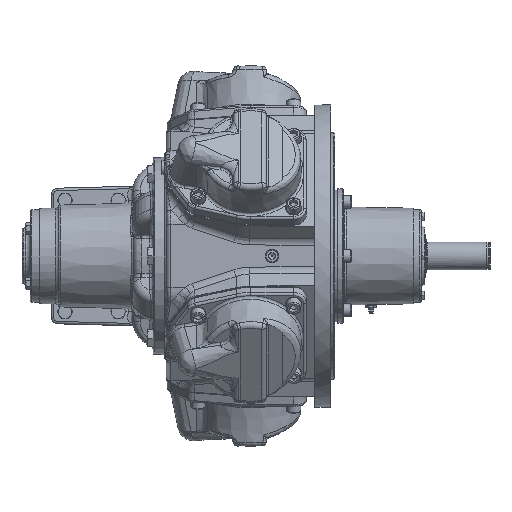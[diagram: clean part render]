
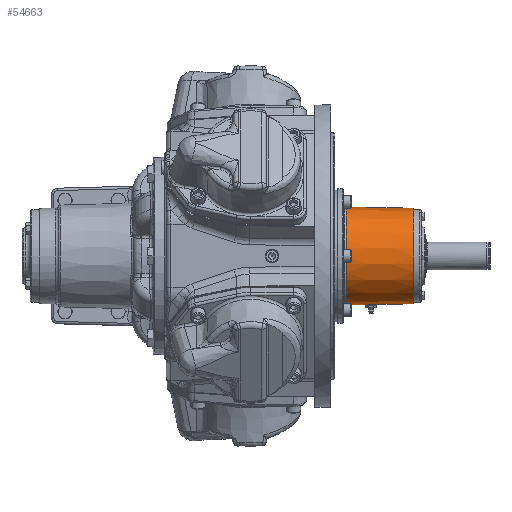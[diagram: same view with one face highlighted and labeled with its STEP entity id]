
A CAD part, front view. The second image highlights one B-rep face of the part: STEP entity #54663.
In plain terms, the highlighted conical face has half-angle 1 degrees and reference radius 60 mm.
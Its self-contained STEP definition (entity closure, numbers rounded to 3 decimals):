
#2433 = CONICAL_SURFACE ( 'NONE', #6044, 60., 0.017 ) ;
#3591 = CARTESIAN_POINT ( 'NONE',  ( 151.785, 4.666, -60.802 ) ) ;
#4702 = CARTESIAN_POINT ( 'NONE',  ( 155.419, 2.101, -60.882 ) ) ;
#5245 = CARTESIAN_POINT ( 'NONE',  ( 150.594, -4.666, -60.823 ) ) ;
#5708 = EDGE_CURVE ( 'NONE', #60776, #60776, #40222, .T. ) ;
#5795 = CARTESIAN_POINT ( 'NONE',  ( 151.826, -4.661, -60.802 ) ) ;
#6044 = AXIS2_PLACEMENT_3D ( 'NONE', #45605, #62904, #72428 ) ;
#6242 = EDGE_LOOP ( 'NONE', ( #24904 ) ) ;
#6872 = CARTESIAN_POINT ( 'NONE',  ( 147.432, 2.856, -60.991 ) ) ;
#7052 = CARTESIAN_POINT ( 'NONE',  ( 119.965, 0., -61.537 ) ) ;
#7419 = CARTESIAN_POINT ( 'NONE',  ( 146.718, -1.531, -61.051 ) ) ;
#12004 = CARTESIAN_POINT ( 'NONE',  ( 152.687, 4.461, -60.802 ) ) ;
#12533 = CARTESIAN_POINT ( 'NONE',  ( 152.722, -4.45, -60.802 ) ) ;
#13067 = CARTESIAN_POINT ( 'NONE',  ( 149.689, -4.461, -60.855 ) ) ;
#13620 = CARTESIAN_POINT ( 'NONE',  ( 153.567, -4.065, -60.815 ) ) ;
#20370 = CARTESIAN_POINT ( 'NONE',  ( 155.874, 0.634, -60.907 ) ) ;
#20906 = CARTESIAN_POINT ( 'NONE',  ( 147.868, -3.334, -60.958 ) ) ;
#23099 = CARTESIAN_POINT ( 'NONE',  ( 147.627, 3.093, -60.976 ) ) ;
#24177 = CARTESIAN_POINT ( 'NONE',  ( 146.958, -2.099, -61.03 ) ) ;
#24727 = CARTESIAN_POINT ( 'NONE',  ( 147.647, -3.116, -60.974 ) ) ;
#24904 = ORIENTED_EDGE ( 'NONE', *, *, #84557, .F. ) ;
#25266 = CARTESIAN_POINT ( 'NONE',  ( 146.472, -0.323, -61.074 ) ) ;
#27710 = AXIS2_PLACEMENT_3D ( 'NONE', #40115, #64715, #49592 ) ;
#28736 = CARTESIAN_POINT ( 'NONE',  ( 155.29, -2.341, -60.876 ) ) ;
#29305 = CARTESIAN_POINT ( 'NONE',  ( 154.949, -2.852, -60.86 ) ) ;
#29846 = CARTESIAN_POINT ( 'NONE',  ( 155.908, -0.286, -60.909 ) ) ;
#30956 = CARTESIAN_POINT ( 'NONE',  ( 155.905, 0.328, -60.909 ) ) ;
#31511 = CARTESIAN_POINT ( 'NONE',  ( 147.868, -3.334, -60.958 ) ) ;
#33150 = CARTESIAN_POINT ( 'NONE',  ( 146.942, 2.068, -61.031 ) ) ;
#36404 = B_SPLINE_CURVE_WITH_KNOTS ( 'NONE', 3,
 ( #20906, #39863, #56055, #47134, #89668, #13067, #89120, #5245, #82374, #71759, #5795, #105369, #12533, #37670, #13620, #105914, #80700, #38220, #29305, #28736, #62791, #72319, #47673, #106475, #29846, #30956, #20370, #65000, #99154, #4702, #63902, #98062, #90779, #96966, #38763, #54410, #88583, #12004, #80149, #3591, #63345, #72869, #64451, #107023, #66091, #50414, #41487, #101906, #75614, #23099, #6872, #92419, #33150, #101360, #84574, #57153, #67721, #25266, #67178, #40404, #7419, #24177, #93499, #49870, #24727, #31511 ),
 .UNSPECIFIED., .T., .F.,
 ( 4, 2, 2, 2, 2, 2, 2, 2, 2, 2, 2, 2, 2, 2, 2, 2, 2, 2, 2, 2, 2, 2, 2, 2, 2, 2, 2, 2, 2, 2, 2, 2, 4 ),
 ( 0., 0.001, 0.002, 0.003, 0.004, 0.005, 0.006, 0.006, 0.007, 0.008, 0.009, 0.01, 0.011, 0.012, 0.013, 0.014, 0.015, 0.016, 0.017, 0.018, 0.019, 0.019, 0.02, 0.021, 0.022, 0.023, 0.024, 0.025, 0.026, 0.027, 0.028, 0.029, 0.03 ),
 .UNSPECIFIED. ) ;
#37670 = CARTESIAN_POINT ( 'NONE',  ( 153.292, -4.213, -60.809 ) ) ;
#37919 = EDGE_CURVE ( 'NONE', #74156, #74156, #36404, .T. ) ;
#38220 = CARTESIAN_POINT ( 'NONE',  ( 154.754, -3.09, -60.851 ) ) ;
#38763 = CARTESIAN_POINT ( 'NONE',  ( 154.045, 3.749, -60.827 ) ) ;
#39863 = CARTESIAN_POINT ( 'NONE',  ( 148.09, -3.552, -60.943 ) ) ;
#40115 = CARTESIAN_POINT ( 'NONE',  ( 204.6, 0., 0. ) ) ;
#40222 = CIRCLE ( 'NONE', #27710, 60.059 ) ;
#40404 = CARTESIAN_POINT ( 'NONE',  ( 146.628, -1.238, -61.059 ) ) ;
#41487 = CARTESIAN_POINT ( 'NONE',  ( 148.813, 4.067, -60.898 ) ) ;
#42274 = DIRECTION ( 'NONE',  ( 0., 0., -1. ) ) ;
#45605 = CARTESIAN_POINT ( 'NONE',  ( 208., 0., 0. ) ) ;
#46150 = FACE_OUTER_BOUND ( 'NONE', #6242, .T. ) ;
#47134 = CARTESIAN_POINT ( 'NONE',  ( 148.848, -4.087, -60.896 ) ) ;
#47673 = CARTESIAN_POINT ( 'NONE',  ( 155.76, -1.202, -60.901 ) ) ;
#49592 = DIRECTION ( 'NONE',  ( 0., 0., -1. ) ) ;
#49679 = ORIENTED_EDGE ( 'NONE', *, *, #5708, .T. ) ;
#49870 = CARTESIAN_POINT ( 'NONE',  ( 147.451, -2.88, -60.989 ) ) ;
#50414 = CARTESIAN_POINT ( 'NONE',  ( 149.083, 4.211, -60.883 ) ) ;
#50740 = CARTESIAN_POINT ( 'NONE',  ( 204.6, 0., -60.059 ) ) ;
#54410 = CARTESIAN_POINT ( 'NONE',  ( 153.53, 4.086, -60.814 ) ) ;
#54663 = ADVANCED_FACE ( 'NONE', ( #89784, #70753, #46150 ), #2433, .T. ) ;
#56055 = CARTESIAN_POINT ( 'NONE',  ( 148.33, -3.746, -60.927 ) ) ;
#57153 = CARTESIAN_POINT ( 'NONE',  ( 146.499, 0.597, -61.071 ) ) ;
#60776 = VERTEX_POINT ( 'NONE', #50740 ) ;
#61442 = AXIS2_PLACEMENT_3D ( 'NONE', #87029, #76961, #42274 ) ;
#62791 = CARTESIAN_POINT ( 'NONE',  ( 155.437, -2.066, -60.883 ) ) ;
#62904 = DIRECTION ( 'NONE',  ( -1., 0., 0. ) ) ;
#63345 = CARTESIAN_POINT ( 'NONE',  ( 151.48, 4.695, -60.806 ) ) ;
#63726 = ORIENTED_EDGE ( 'NONE', *, *, #37919, .T. ) ;
#63902 = CARTESIAN_POINT ( 'NONE',  ( 155.271, 2.374, -60.875 ) ) ;
#64451 = CARTESIAN_POINT ( 'NONE',  ( 150.552, 4.661, -60.824 ) ) ;
#64715 = DIRECTION ( 'NONE',  ( -1., 0., 0. ) ) ;
#65000 = CARTESIAN_POINT ( 'NONE',  ( 155.75, 1.241, -60.9 ) ) ;
#65039 = CIRCLE ( 'NONE', #61442, 61.537 ) ;
#66091 = CARTESIAN_POINT ( 'NONE',  ( 149.653, 4.449, -60.856 ) ) ;
#67178 = CARTESIAN_POINT ( 'NONE',  ( 146.504, -0.635, -61.071 ) ) ;
#67721 = CARTESIAN_POINT ( 'NONE',  ( 146.47, 0.291, -61.074 ) ) ;
#70753 = FACE_BOUND ( 'NONE', #79381, .T. ) ;
#71759 = CARTESIAN_POINT ( 'NONE',  ( 151.514, -4.693, -60.805 ) ) ;
#72319 = CARTESIAN_POINT ( 'NONE',  ( 155.672, -1.495, -60.896 ) ) ;
#72428 = DIRECTION ( 'NONE',  ( 0., 0., -1. ) ) ;
#72869 = CARTESIAN_POINT ( 'NONE',  ( 150.858, 4.692, -60.817 ) ) ;
#74156 = VERTEX_POINT ( 'NONE', #80887 ) ;
#75614 = CARTESIAN_POINT ( 'NONE',  ( 148.061, 3.527, -60.945 ) ) ;
#76961 = DIRECTION ( 'NONE',  ( -1., 0., 0. ) ) ;
#79381 = EDGE_LOOP ( 'NONE', ( #49679 ) ) ;
#80149 = CARTESIAN_POINT ( 'NONE',  ( 152.388, 4.55, -60.801 ) ) ;
#80646 = EDGE_LOOP ( 'NONE', ( #63726 ) ) ;
#80700 = CARTESIAN_POINT ( 'NONE',  ( 154.315, -3.529, -60.835 ) ) ;
#80887 = CARTESIAN_POINT ( 'NONE',  ( 147.868, -3.334, -60.958 ) ) ;
#82374 = CARTESIAN_POINT ( 'NONE',  ( 150.9, -4.695, -60.816 ) ) ;
#83105 = VERTEX_POINT ( 'NONE', #7052 ) ;
#84557 = EDGE_CURVE ( 'NONE', #83105, #83105, #65039, .T. ) ;
#84574 = CARTESIAN_POINT ( 'NONE',  ( 146.618, 1.204, -61.06 ) ) ;
#87029 = CARTESIAN_POINT ( 'NONE',  ( 119.965, 0., 0. ) ) ;
#88583 = CARTESIAN_POINT ( 'NONE',  ( 153.259, 4.229, -60.809 ) ) ;
#89120 = CARTESIAN_POINT ( 'NONE',  ( 149.987, -4.549, -60.843 ) ) ;
#89668 = CARTESIAN_POINT ( 'NONE',  ( 149.122, -4.23, -60.881 ) ) ;
#89784 = FACE_BOUND ( 'NONE', #80646, .T. ) ;
#90779 = CARTESIAN_POINT ( 'NONE',  ( 154.726, 3.121, -60.85 ) ) ;
#92419 = CARTESIAN_POINT ( 'NONE',  ( 147.088, 2.342, -61.019 ) ) ;
#93499 = CARTESIAN_POINT ( 'NONE',  ( 147.107, -2.373, -61.017 ) ) ;
#96966 = CARTESIAN_POINT ( 'NONE',  ( 154.288, 3.552, -60.834 ) ) ;
#98062 = CARTESIAN_POINT ( 'NONE',  ( 154.923, 2.886, -60.859 ) ) ;
#99154 = CARTESIAN_POINT ( 'NONE',  ( 155.658, 1.537, -60.895 ) ) ;
#101360 = CARTESIAN_POINT ( 'NONE',  ( 146.708, 1.501, -61.052 ) ) ;
#101906 = CARTESIAN_POINT ( 'NONE',  ( 148.302, 3.725, -60.928 ) ) ;
#105369 = CARTESIAN_POINT ( 'NONE',  ( 152.429, -4.539, -60.801 ) ) ;
#105914 = CARTESIAN_POINT ( 'NONE',  ( 154.077, -3.724, -60.828 ) ) ;
#106475 = CARTESIAN_POINT ( 'NONE',  ( 155.879, -0.598, -60.908 ) ) ;
#107023 = CARTESIAN_POINT ( 'NONE',  ( 149.951, 4.539, -60.844 ) ) ;
